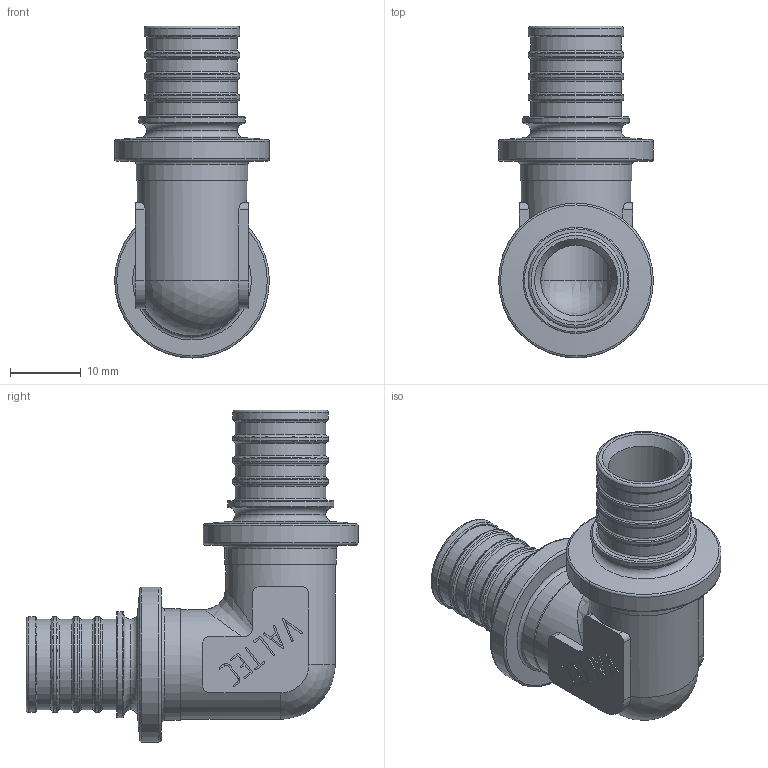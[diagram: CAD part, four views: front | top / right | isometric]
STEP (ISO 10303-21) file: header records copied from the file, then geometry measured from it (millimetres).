
FILE_DESCRIPTION(('STEP AP203'), '1');
FILE_NAME('ÂÐ.752211.001 - VTm.451.G.001616 - Ôèò. àêñ. óãîë.', '', ('UNSPECIFIED'), ('UNSPECIFIED'), 'C3D Converter', 'C3D Toolkit', '');
FILE_SCHEMA(('CONFIG_CONTROL_DESIGN'));
Length unit declared in the file: millimetre
Products named in the file (1): ВР.752211.001
Bounding box: 21.9 x 46.95 x 46.95 mm (x, y, z)
Volume: 7579.2 mm3; surface area: 6820.3 mm2
Topology: 1 solids, 1 shells, 354 faces, 933 edges, 598 vertices
Faces by surface type: extrusion 142, plane 115, torus 50, cylinder 38, cone 6, sphere 2, bspline 1
Full cylindrical faces by diameter (mm): 10 x2, 12.8 x8, 13.5 x8, 15 x2, 15.5 x2, 15.8 x2, 21.9 x2
Entity records: 13911 total; most frequent: CARTESIAN_POINT 3084, ORIENTED_EDGE 1722, DIRECTION 1258, EDGE_CURVE 861, VERTEX_POINT 598, VECTOR 568, EDGE_LOOP 445, B_SPLINE_CURVE_WITH_KNOTS 442
